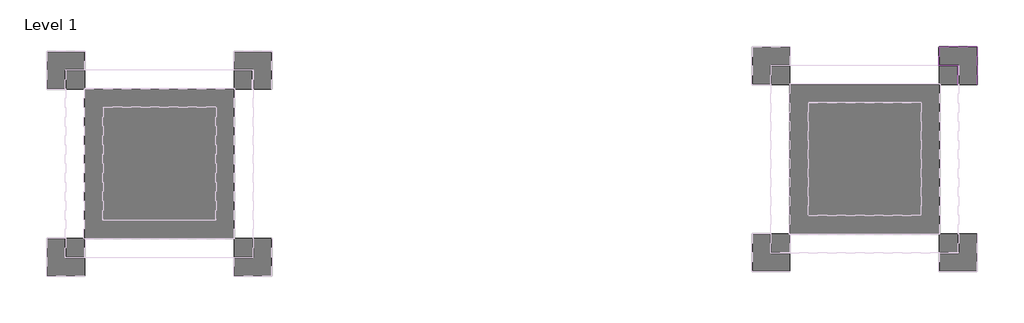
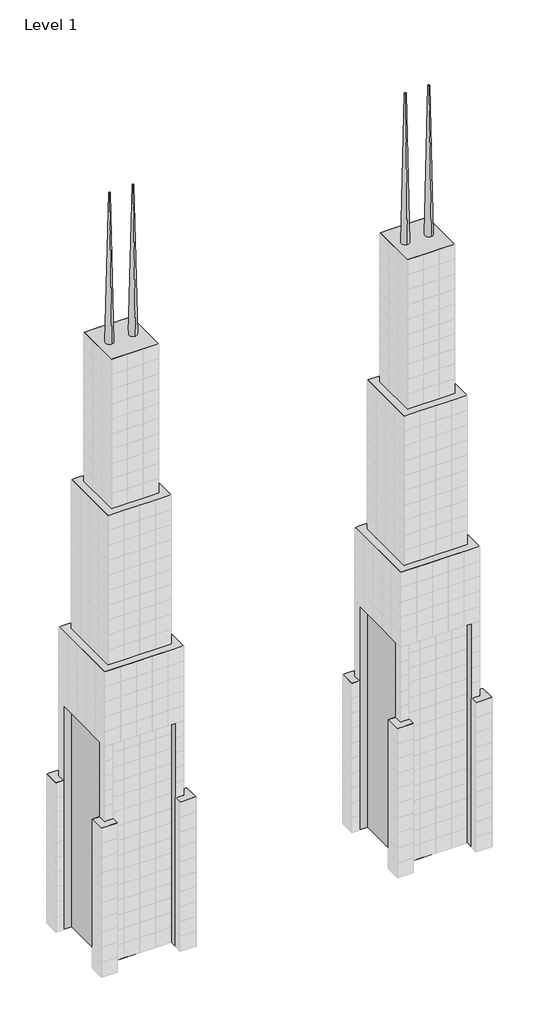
# One storey, part 15 of 15: 93 plates, 2 proxies.
"""IFC4 building model written with IfcOpenShell, lengths in millimetres."""

from ifc_helpers import new_model, si_unit, frame, origin, origin_with_axes, place, context, project, spatial, polyline, circle_curve, outline, extrude, faceted_brep, transform, mapped, element, save
from ifc_brep_helpers import plane_surface, revolved_surface, advanced_brep
from components import system_panel_glazed_9c75bc08, system_panel_glazed_aa64d645

model = new_model("IFC4")

# Units and contexts
model_context = context("Model", 3, world=origin())
ifc_project = project(units=[si_unit("LENGTHUNIT", "METRE", prefix="MILLI")], contexts=[model_context])

# Site, building, storey
site = spatial("IfcSite", under=ifc_project)
building = spatial("IfcBuilding", under=site)
storey = spatial("IfcBuildingStorey", under=building, Name="Level 1", Elevation=0.0)

# Proxies
placement = place(None, origin())
element("IfcBuildingElementProxy", 1, Name="Mass 1 : Mass 1", ObjectType="Mass 1 : Mass 1", at=placement, inside=storey, context=model_context, shape_type="SolidModel", body=[
    faceted_brep([(-5599.4161695, 9497.9495511, 60960.0), (-20839.4161695, 9497.9495511, 60960.0), (-20839.4161695, -5742.0504489, 60960.0), (-5599.4161695, -5742.0504489, 60960.0), (-5599.4161695, -5742.0504489, 0.0), (-7123.4161695, -5742.0504489, 0.0), (-7123.4161695, -4218.0504489, 0.0), (-5599.4161695, -4218.0504489, 0.0), (-19315.4161695, -5742.0504489, 0.0), (-20839.4161695, -5742.0504489, 0.0), (-20839.4161695, -4218.0504489, 0.0), (-19315.4161695, -4218.0504489, 0.0), (-19315.4161695, 7973.9495511, 0.0), (-7123.4161695, 7973.9495511, 0.0), (-7123.4161695, 9497.9495511, 0.0), (-5599.4161695, 9497.9495511, 0.0), (-5599.4161695, 7973.9495511, 0.0), (-20839.4161695, 9497.9495511, 0.0), (-19315.4161695, 9497.9495511, 0.0), (-20839.4161695, 7973.9495511, 0.0), (-7123.4161695, 9497.9495511, 45720.0), (-19315.4161695, 9497.9495511, 45720.0), (-20839.4161695, 7973.9495511, 45720.0), (-20839.4161695, -4218.0504489, 45720.0), (-19315.4161695, -5742.0504489, 45720.0), (-7123.4161695, -5742.0504489, 45720.0), (-5599.4161695, -4218.0504489, 45720.0), (-5599.4161695, 7973.9495511, 45720.0), (-19315.4161695, -4218.0504489, 45720.0), (-7123.4161695, -4218.0504489, 45720.0), (-7123.4161695, 7973.9495511, 45720.0), (-19315.4161695, 7973.9495511, 45720.0), (-19315.4161695, 7973.9495511, 45720.0), (-19315.4161695, -4218.0504489, 45720.0), (-7123.4161695, -4218.0504489, 45720.0), (-7123.4161695, 7973.9495511, 45720.0)], [[[0, 1, 2, 3]], [[4, 5, 6, 7]], [[8, 9, 10, 11]], [[6, 11, 12, 13]], [[14, 15, 16, 13]], [[17, 18, 12, 19]], [[1, 0, 15, 14, 20, 21, 18, 17]], [[2, 1, 17, 19, 22, 23, 10, 9]], [[3, 2, 9, 8, 24, 25, 5, 4]], [[0, 3, 4, 7, 26, 27, 16, 15]], [[24, 28, 29, 25]], [[25, 29, 6, 5]], [[29, 28, 11, 6]], [[28, 24, 8, 11]], [[20, 30, 31, 21]], [[21, 31, 12, 18]], [[31, 30, 13, 12]], [[30, 20, 14, 13]], [[22, 32, 33, 23]], [[23, 33, 11, 10]], [[33, 32, 12, 11]], [[32, 22, 19, 12]], [[26, 34, 35, 27]], [[27, 35, 13, 16]], [[35, 34, 6, 13]], [[34, 26, 7, 6]]]),
    extrude(outline(polyline([(-19315.4161695, 7973.9495511), (-7123.4161695, 7973.9495511), (-7123.4161695, -4218.0504489), (-19315.4161695, -4218.0504489), (-19315.4161695, 7973.9495511)])), frame((0.0, 0.0, 60960.0), z_axis=(0.0, 0.0, 1.0), x_axis=(1.0, 0.0, 0.0)), (0.0, 0.0, 1.0), 30480.0),
    extrude(outline(polyline([(-8641.8488996, 6449.9495511), (-8641.8488996, -2694.0504489), (-17785.8488996, -2694.0504489), (-17785.8488996, 6449.9495511), (-8641.8488996, 6449.9495511)])), frame((0.0, 0.0, 91440.0), z_axis=(0.0, 0.0, 1.0), x_axis=(1.0, 0.0, 0.0)), (0.0, 0.0, 1.0), 30480.0),
    extrude(outline(polyline([(-4075.4161695, -4218.0504489), (-4075.4161695, -7266.0504489), (-7123.4161695, -7266.0504489), (-7123.4161695, -5742.0504489), (-5599.4161695, -5742.0504489), (-5599.4161695, -4218.0504489), (-4075.4161695, -4218.0504489)])), origin_with_axes(), (0.0, 0.0, 1.0), 30480.0),
    extrude(outline(polyline([(-22363.4161695, -4218.0504489), (-20839.4161695, -4218.0504489), (-20839.4161695, -5742.0504489), (-19315.4161695, -5742.0504489), (-19315.4161695, -7266.0504489), (-22363.4161695, -7266.0504489), (-22363.4161695, -4218.0504489)])), origin_with_axes(), (0.0, 0.0, 1.0), 30480.0),
    extrude(outline(polyline([(-4075.4161695, 7973.9495511), (-5599.4161695, 7973.9495511), (-5599.4161695, 9497.9495511), (-7123.4161695, 9497.9495511), (-7123.4161695, 11021.9495511), (-4075.4161695, 11021.9495511), (-4075.4161695, 7973.9495511)])), origin_with_axes(), (0.0, 0.0, 1.0), 30480.0),
    extrude(outline(polyline([(-22363.4161695, 7973.9495511), (-22363.4161695, 11021.9495511), (-19315.4161695, 11021.9495511), (-19315.4161695, 9497.9495511), (-20839.4161695, 9497.9495511), (-20839.4161695, 7973.9495511), (-22363.4161695, 7973.9495511)])), origin_with_axes(), (0.0, 0.0, 1.0), 30480.0),
    advanced_brep(
    [(-15521.307727, 1736.5830766, 152400.0), (-15522.7857924, 2041.3794928, 152400.0), (-15518.3515961, 1126.9902442, 121920.0), (-15525.7419233, 2650.9723252, 121920.0)],
    [
        (0, 1, circle_curve(frame((-15522.0467597, 1888.9812847, 152400.0), z_axis=(0.0, 0.0, 1.0), x_axis=(0.004849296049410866, -0.9999882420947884, 0.0)), 152.4)),
        (1, 0, circle_curve(frame((-15522.0467597, 1888.9812847, 152400.0), z_axis=(0.0, 0.0, 1.0), x_axis=(-0.004849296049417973, 0.9999882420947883, 0.0)), 152.4)),
        (2, 3, circle_curve(frame((-15522.0467597, 1888.9812847, 121920.0), z_axis=(0.0, 0.0, -1.0), x_axis=(-0.004849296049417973, 0.9999882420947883, 0.0)), 762.0)),
        (3, 2, circle_curve(frame((-15522.0467597, 1888.9812847, 121920.0), z_axis=(0.0, 0.0, -1.0), x_axis=(0.004849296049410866, -0.9999882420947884, 0.0)), 762.0)),
        (3, 1),
        (0, 2),
    ],
    [
        plane_surface(frame((-15522.0467597, 1888.9812847, 152400.0), z_axis=(0.0, 0.0, 1.0000000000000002), x_axis=(0.9999882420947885, 0.004849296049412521, 0.0))),
        plane_surface(frame((-15522.0467597, 1888.9812847, 121920.0), z_axis=(0.0, 0.0, -1.0000000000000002), x_axis=(0.9999882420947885, 0.004849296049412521, 0.0))),
        revolved_surface(polyline([(-15521.30772698, 1736.5830766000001, 152400.0), (-15518.3515961, 1126.9902442, 121920.0)]), (-15522.0467597, 1888.9812847, 160020.0), (0.0, 0.0, -1.0)),
        revolved_surface(polyline([(-15522.78579242, 2041.3794928, 152400.0), (-15525.7419233, 2650.9723252, 121920.0)]), (-15522.0467597, 1888.9812847, 160020.0), (0.0, 0.0, -1.0)),
    ],
    [
        (0, [[1, 2]]),
        (1, [[3, 4]]),
        (2, [[-4, 5, -1, 6]]),
        (3, [[-3, -6, -2, -5]]),
    ],
),
    advanced_brep(
    [(-10949.3614841, 1758.7540581, 152400.0), (-10950.8395495, 2063.5504743, 152400.0), (-10946.4053532, 1149.1612258, 121920.0), (-10953.7956804, 2673.1433067, 121920.0)],
    [
        (0, 1, circle_curve(frame((-10950.1005168, 1911.1522662, 152400.0), z_axis=(0.0, 0.0, 1.0), x_axis=(0.004849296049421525, -0.9999882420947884, 0.0)), 152.4)),
        (1, 0, circle_curve(frame((-10950.1005168, 1911.1522662, 152400.0), z_axis=(0.0, 0.0, 1.0), x_axis=(-0.004849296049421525, 0.9999882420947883, 0.0)), 152.4)),
        (2, 3, circle_curve(frame((-10950.1005168, 1911.1522662, 121920.0), z_axis=(0.0, 0.0, -1.0), x_axis=(-0.004849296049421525, 0.9999882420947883, 0.0)), 762.0)),
        (3, 2, circle_curve(frame((-10950.1005168, 1911.1522662, 121920.0), z_axis=(0.0, 0.0, -1.0), x_axis=(0.004849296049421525, -0.9999882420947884, 0.0)), 762.0)),
        (3, 1),
        (0, 2),
    ],
    [
        plane_surface(frame((-10950.1005168, 1911.1522662, 152400.0), z_axis=(0.0, 0.0, 1.0000000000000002), x_axis=(0.9999882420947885, 0.004849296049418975, 0.0))),
        plane_surface(frame((-10950.1005168, 1911.1522662, 121920.0), z_axis=(0.0, 0.0, -1.0000000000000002), x_axis=(0.9999882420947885, 0.004849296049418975, 0.0))),
        revolved_surface(polyline([(-10949.36148408, 1758.75405812, 152400.0), (-10946.4053532, 1149.1612258, 121920.0)]), (-10950.1005168, 1911.1522662, 160020.0), (0.0, 0.0, -1.0)),
        revolved_surface(polyline([(-10950.83954952, 2063.5504743, 152400.0), (-10953.7956804, 2673.1433067, 121920.0)]), (-10950.1005168, 1911.1522662, 160020.0), (0.0, 0.0, -1.0)),
    ],
    [
        (0, [[1, 2]]),
        (1, [[3, 4]]),
        (2, [[-4, 5, -1, 6]]),
        (3, [[-3, -6, -2, -5]]),
    ],
),
])
element("IfcBuildingElementProxy", 2, Name="Mass 4 : Mass 1", ObjectType="Mass 4 : Mass 1", at=placement, inside=storey, context=model_context, shape_type="SolidModel", body=[
    faceted_brep([(51834.2903978, 9875.0904402, 60960.0), (36594.2903978, 9875.0904402, 60960.0), (36594.2903978, -5364.9095598, 60960.0), (51834.2903978, -5364.9095598, 60960.0), (51834.2903978, -5364.9095598, 0.0), (50310.2903978, -5364.9095598, 0.0), (50310.2903978, -3840.9095598, 0.0), (51834.2903978, -3840.9095598, 0.0), (38118.2903978, -5364.9095598, 0.0), (36594.2903978, -5364.9095598, 0.0), (36594.2903978, -3840.9095598, 0.0), (38118.2903978, -3840.9095598, 0.0), (38118.2903978, 8351.0904402, 0.0), (50310.2903978, 8351.0904402, 0.0), (50310.2903978, 9875.0904402, 0.0), (51834.2903978, 9875.0904402, 0.0), (51834.2903978, 8351.0904402, 0.0), (36594.2903978, 9875.0904402, 0.0), (38118.2903978, 9875.0904402, 0.0), (36594.2903978, 8351.0904402, 0.0), (50310.2903978, 9875.0904402, 45720.0), (38118.2903978, 9875.0904402, 45720.0), (36594.2903978, 8351.0904402, 45720.0), (36594.2903978, -3840.9095598, 45720.0), (38118.2903978, -5364.9095598, 45720.0), (50310.2903978, -5364.9095598, 45720.0), (51834.2903978, -3840.9095598, 45720.0), (51834.2903978, 8351.0904402, 45720.0), (38118.2903978, -3840.9095598, 45720.0), (50310.2903978, -3840.9095598, 45720.0), (50310.2903978, 8351.0904402, 45720.0), (38118.2903978, 8351.0904402, 45720.0), (38118.2903978, 8351.0904402, 45720.0), (38118.2903978, -3840.9095598, 45720.0), (50310.2903978, -3840.9095598, 45720.0), (50310.2903978, 8351.0904402, 45720.0)], [[[0, 1, 2, 3]], [[4, 5, 6, 7]], [[8, 9, 10, 11]], [[6, 11, 12, 13]], [[14, 15, 16, 13]], [[17, 18, 12, 19]], [[1, 0, 15, 14, 20, 21, 18, 17]], [[2, 1, 17, 19, 22, 23, 10, 9]], [[3, 2, 9, 8, 24, 25, 5, 4]], [[0, 3, 4, 7, 26, 27, 16, 15]], [[24, 28, 29, 25]], [[25, 29, 6, 5]], [[29, 28, 11, 6]], [[28, 24, 8, 11]], [[20, 30, 31, 21]], [[21, 31, 12, 18]], [[31, 30, 13, 12]], [[30, 20, 14, 13]], [[22, 32, 33, 23]], [[23, 33, 11, 10]], [[33, 32, 12, 11]], [[32, 22, 19, 12]], [[26, 34, 35, 27]], [[27, 35, 13, 16]], [[35, 34, 6, 13]], [[34, 26, 7, 6]]]),
    extrude(outline(polyline([(38118.2903978, 8351.0904402), (50310.2903978, 8351.0904402), (50310.2903978, -3840.9095598), (38118.2903978, -3840.9095598), (38118.2903978, 8351.0904402)])), frame((0.0, 0.0, 60960.0), z_axis=(0.0, 0.0, 1.0), x_axis=(1.0, 0.0, 0.0)), (0.0, 0.0, 1.0), 30480.0),
    extrude(outline(polyline([(48791.8576677, 6827.0904402), (48791.8576677, -2316.9095598), (39647.8576677, -2316.9095598), (39647.8576677, 6827.0904402), (48791.8576677, 6827.0904402)])), frame((0.0, 0.0, 91440.0), z_axis=(0.0, 0.0, 1.0), x_axis=(1.0, 0.0, 0.0)), (0.0, 0.0, 1.0), 30480.0),
    extrude(outline(polyline([(53358.2903978, -3840.9095598), (53358.2903978, -6888.9095598), (50310.2903978, -6888.9095598), (50310.2903978, -5364.9095598), (51834.2903978, -5364.9095598), (51834.2903978, -3840.9095598), (53358.2903978, -3840.9095598)])), origin_with_axes(), (0.0, 0.0, 1.0), 30480.0),
    extrude(outline(polyline([(35070.2903978, -3840.9095598), (36594.2903978, -3840.9095598), (36594.2903978, -5364.9095598), (38118.2903978, -5364.9095598), (38118.2903978, -6888.9095598), (35070.2903978, -6888.9095598), (35070.2903978, -3840.9095598)])), origin_with_axes(), (0.0, 0.0, 1.0), 30480.0),
    extrude(outline(polyline([(53358.2903978, 8351.0904402), (51834.2903978, 8351.0904402), (51834.2903978, 9875.0904402), (50310.2903978, 9875.0904402), (50310.2903978, 11399.0904402), (53358.2903978, 11399.0904402), (53358.2903978, 8351.0904402)])), origin_with_axes(), (0.0, 0.0, 1.0), 30480.0),
    extrude(outline(polyline([(35070.2903978, 8351.0904402), (35070.2903978, 11399.0904402), (38118.2903978, 11399.0904402), (38118.2903978, 9875.0904402), (36594.2903978, 9875.0904402), (36594.2903978, 8351.0904402), (35070.2903978, 8351.0904402)])), origin_with_axes(), (0.0, 0.0, 1.0), 30480.0),
    advanced_brep(
    [(41889.4076677, 2147.1404402, 152400.0), (41889.4076677, 2451.9404402, 152400.0), (41889.4076677, 1537.5404402, 121920.0), (41889.4076677, 3061.5404402, 121920.0)],
    [
        (0, 1, circle_curve(frame((41889.4076677, 2299.5404402, 152400.0), z_axis=(0.0, 0.0, 1.0), x_axis=(0.0, -1.0, 0.0)), 152.4)),
        (1, 0, circle_curve(frame((41889.4076677, 2299.5404402, 152400.0), z_axis=(0.0, 0.0, 1.0), x_axis=(0.0, 1.0, 0.0)), 152.4)),
        (2, 3, circle_curve(frame((41889.4076677, 2299.5404402, 121920.0), z_axis=(0.0, 0.0, -1.0), x_axis=(0.0, 1.0, 0.0)), 762.0)),
        (3, 2, circle_curve(frame((41889.4076677, 2299.5404402, 121920.0), z_axis=(0.0, 0.0, -1.0), x_axis=(0.0, -1.0, 0.0)), 762.0)),
        (3, 1),
        (0, 2),
    ],
    [
        plane_surface(frame((41889.4076677, 2299.5404402, 152400.0), z_axis=(0.0, 0.0, 1.0), x_axis=(1.0, 0.0, 0.0))),
        plane_surface(frame((41889.4076677, 2299.5404402, 121920.0), z_axis=(0.0, 0.0, -1.0), x_axis=(1.0, 0.0, 0.0))),
        revolved_surface(polyline([(41889.4076677, 2147.1404402, 152400.0), (41889.4076677, 1537.5404402, 121920.0)]), (41889.4076677, 2299.5404402, 160020.0), (0.0, 0.0, -1.0)),
        revolved_surface(polyline([(41889.4076677, 2451.9404402, 152400.0), (41889.4076677, 3061.5404402, 121920.0)]), (41889.4076677, 2299.5404402, 160020.0), (0.0, 0.0, -1.0)),
    ],
    [
        (0, [[1, 2]]),
        (1, [[3, 4]]),
        (2, [[-4, 5, -1, 6]]),
        (3, [[-3, -6, -2, -5]]),
    ],
),
    advanced_brep(
    [(46461.4076677, 2147.1404402, 152400.0), (46461.4076677, 2451.9404402, 152400.0), (46461.4076677, 1537.5404402, 121920.0), (46461.4076677, 3061.5404402, 121920.0)],
    [
        (0, 1, circle_curve(frame((46461.4076677, 2299.5404402, 152400.0), z_axis=(0.0, 0.0, 1.0), x_axis=(0.0, -1.0, 0.0)), 152.4)),
        (1, 0, circle_curve(frame((46461.4076677, 2299.5404402, 152400.0), z_axis=(0.0, 0.0, 1.0), x_axis=(0.0, 1.0, 0.0)), 152.4)),
        (2, 3, circle_curve(frame((46461.4076677, 2299.5404402, 121920.0), z_axis=(0.0, 0.0, -1.0), x_axis=(0.0, 1.0, 0.0)), 762.0)),
        (3, 2, circle_curve(frame((46461.4076677, 2299.5404402, 121920.0), z_axis=(0.0, 0.0, -1.0), x_axis=(0.0, -1.0, 0.0)), 762.0)),
        (3, 1),
        (0, 2),
    ],
    [
        plane_surface(frame((46461.4076677, 2299.5404402, 152400.0), z_axis=(0.0, 0.0, 1.0), x_axis=(1.0, 0.0, 0.0))),
        plane_surface(frame((46461.4076677, 2299.5404402, 121920.0), z_axis=(0.0, 0.0, -1.0), x_axis=(1.0, 0.0, 0.0))),
        revolved_surface(polyline([(46461.4076677, 2147.1404402, 152400.0), (46461.4076677, 1537.5404402, 121920.0)]), (46461.4076677, 2299.5404402, 160020.0), (0.0, 0.0, -1.0)),
        revolved_surface(polyline([(46461.4076677, 2451.9404402, 152400.0), (46461.4076677, 3061.5404402, 121920.0)]), (46461.4076677, 2299.5404402, 160020.0), (0.0, 0.0, -1.0)),
    ],
    [
        (0, [[1, 2]]),
        (1, [[3, 4]]),
        (2, [[-4, 5, -1, 6]]),
        (3, [[-3, -6, -2, -5]]),
    ],
),
])

# Plates
system_panel_glazed_shape = system_panel_glazed_9c75bc08(model_context)
element("IfcPlate", 3, ObjectType="System Panel : Glazed", at=placement, inside=storey, context=model_context, shape_type="MappedRepresentation", body=[
    mapped(system_panel_glazed_shape, transform((51072.2903978, 9875.0904402, 36576.0), x_axis=(-1.0, 0.0, 0.0), y_axis=(0.0, -1.0, 0.0), z_axis=(0.0, 0.0, 1.0))),
])
element("IfcPlate", 4, ObjectType="System Panel : Glazed", at=placement, inside=storey, context=model_context, shape_type="MappedRepresentation", body=[
    mapped(system_panel_glazed_shape, transform((51072.2903978, 9875.0904402, 39624.0), x_axis=(-1.0, 0.0, 0.0), y_axis=(0.0, -1.0, 0.0), z_axis=(0.0, 0.0, 1.0))),
])
element("IfcPlate", 5, ObjectType="System Panel : Glazed", at=placement, inside=storey, context=model_context, shape_type="MappedRepresentation", body=[
    mapped(system_panel_glazed_shape, transform((51072.2903978, 9875.0904402, 42672.0), x_axis=(-1.0, 0.0, 0.0), y_axis=(0.0, -1.0, 0.0), z_axis=(0.0, 0.0, 1.0))),
])
element("IfcPlate", 6, ObjectType="System Panel : Glazed", at=placement, inside=storey, context=model_context, shape_type="MappedRepresentation", body=[
    mapped(system_panel_glazed_shape, transform((51072.2903978, 9875.0904402, 0.0), x_axis=(-1.0, 0.0, 0.0), y_axis=(0.0, -1.0, 0.0), z_axis=(0.0, 0.0, 1.0))),
])
element("IfcPlate", 7, ObjectType="System Panel : Glazed", at=placement, inside=storey, context=model_context, shape_type="MappedRepresentation", body=[
    mapped(system_panel_glazed_shape, transform((51072.2903978, 9875.0904402, 3048.0), x_axis=(-1.0, 0.0, 0.0), y_axis=(0.0, -1.0, 0.0), z_axis=(0.0, 0.0, 1.0))),
])
element("IfcPlate", 8, ObjectType="System Panel : Glazed", at=placement, inside=storey, context=model_context, shape_type="MappedRepresentation", body=[
    mapped(system_panel_glazed_shape, transform((51072.2903978, 9875.0904402, 6096.0), x_axis=(-1.0, 0.0, 0.0), y_axis=(0.0, -1.0, 0.0), z_axis=(0.0, 0.0, 1.0))),
])
element("IfcPlate", 9, ObjectType="System Panel : Glazed", at=placement, inside=storey, context=model_context, shape_type="MappedRepresentation", body=[
    mapped(system_panel_glazed_shape, transform((51072.2903978, 9875.0904402, 9144.0), x_axis=(-1.0, 0.0, 0.0), y_axis=(0.0, -1.0, 0.0), z_axis=(0.0, 0.0, 1.0))),
])
element("IfcPlate", 10, ObjectType="System Panel : Glazed", at=placement, inside=storey, context=model_context, shape_type="MappedRepresentation", body=[
    mapped(system_panel_glazed_shape, transform((51072.2903978, 9875.0904402, 12192.0), x_axis=(-1.0, 0.0, 0.0), y_axis=(0.0, -1.0, 0.0), z_axis=(0.0, 0.0, 1.0))),
])
element("IfcPlate", 11, ObjectType="System Panel : Glazed", at=placement, inside=storey, context=model_context, shape_type="MappedRepresentation", body=[
    mapped(system_panel_glazed_shape, transform((51072.2903978, 9875.0904402, 15240.0), x_axis=(-1.0, 0.0, 0.0), y_axis=(0.0, -1.0, 0.0), z_axis=(0.0, 0.0, 1.0))),
])
element("IfcPlate", 12, ObjectType="System Panel : Glazed", at=placement, inside=storey, context=model_context, shape_type="MappedRepresentation", body=[
    mapped(system_panel_glazed_shape, transform((51072.2903978, 9875.0904402, 18288.0), x_axis=(-1.0, 0.0, 0.0), y_axis=(0.0, -1.0, 0.0), z_axis=(0.0, 0.0, 1.0))),
])
element("IfcPlate", 13, ObjectType="System Panel : Glazed", at=placement, inside=storey, context=model_context, shape_type="MappedRepresentation", body=[
    mapped(system_panel_glazed_shape, transform((51072.2903978, 9875.0904402, 21336.0), x_axis=(-1.0, 0.0, 0.0), y_axis=(0.0, -1.0, 0.0), z_axis=(0.0, 0.0, 1.0))),
])
element("IfcPlate", 14, ObjectType="System Panel : Glazed", at=placement, inside=storey, context=model_context, shape_type="MappedRepresentation", body=[
    mapped(system_panel_glazed_shape, transform((51072.2903978, 9875.0904402, 24384.0), x_axis=(-1.0, 0.0, 0.0), y_axis=(0.0, -1.0, 0.0), z_axis=(0.0, 0.0, 1.0))),
])
element("IfcPlate", 15, ObjectType="System Panel : Glazed", at=placement, inside=storey, context=model_context, shape_type="MappedRepresentation", body=[
    mapped(system_panel_glazed_shape, transform((51072.2903978, 9875.0904402, 27432.0), x_axis=(-1.0, 0.0, 0.0), y_axis=(0.0, -1.0, 0.0), z_axis=(0.0, 0.0, 1.0))),
])
element("IfcPlate", 16, ObjectType="System Panel : Glazed", at=placement, inside=storey, context=model_context, shape_type="MappedRepresentation", body=[
    mapped(system_panel_glazed_shape, transform((51072.2903978, 9875.0904402, 30480.0), x_axis=(-1.0, 0.0, 0.0), y_axis=(0.0, -1.0, 0.0), z_axis=(0.0, 0.0, 1.0))),
])
element("IfcPlate", 17, ObjectType="System Panel : Glazed", at=placement, inside=storey, context=model_context, shape_type="MappedRepresentation", body=[
    mapped(system_panel_glazed_shape, transform((51072.2903978, 9875.0904402, 33528.0), x_axis=(-1.0, 0.0, 0.0), y_axis=(0.0, -1.0, 0.0), z_axis=(0.0, 0.0, 1.0))),
])
element("IfcPlate", 18, ObjectType="System Panel : Glazed", at=placement, inside=storey, context=model_context, shape_type="MappedRepresentation", body=[
    mapped(system_panel_glazed_shape, transform((51072.2903978, 9875.0904402, 36576.0), x_axis=(-1.0, 0.0, 0.0), y_axis=(0.0, -1.0, 0.0), z_axis=(0.0, 0.0, 1.0))),
])
element("IfcPlate", 19, ObjectType="System Panel : Glazed", at=placement, inside=storey, context=model_context, shape_type="MappedRepresentation", body=[
    mapped(system_panel_glazed_shape, transform((51072.2903978, 9875.0904402, 39624.0), x_axis=(-1.0, 0.0, 0.0), y_axis=(0.0, -1.0, 0.0), z_axis=(0.0, 0.0, 1.0))),
])
element("IfcPlate", 20, ObjectType="System Panel : Glazed", at=placement, inside=storey, context=model_context, shape_type="MappedRepresentation", body=[
    mapped(system_panel_glazed_shape, transform((51072.2903978, 9875.0904402, 42672.0), x_axis=(-1.0, 0.0, 0.0), y_axis=(0.0, -1.0, 0.0), z_axis=(0.0, 0.0, 1.0))),
])
element("IfcPlate", 21, ObjectType="System Panel : Glazed", at=placement, inside=storey, context=model_context, shape_type="MappedRepresentation", body=[
    mapped(system_panel_glazed_shape, transform((51072.2903978, 9875.0904402, 0.0), x_axis=(-1.0, 0.0, 0.0), y_axis=(0.0, -1.0, 0.0), z_axis=(0.0, 0.0, 1.0))),
])
element("IfcPlate", 22, ObjectType="System Panel : Glazed", at=placement, inside=storey, context=model_context, shape_type="MappedRepresentation", body=[
    mapped(system_panel_glazed_shape, transform((51072.2903978, 9875.0904402, 3048.0), x_axis=(-1.0, 0.0, 0.0), y_axis=(0.0, -1.0, 0.0), z_axis=(0.0, 0.0, 1.0))),
])
element("IfcPlate", 23, ObjectType="System Panel : Glazed", at=placement, inside=storey, context=model_context, shape_type="MappedRepresentation", body=[
    mapped(system_panel_glazed_shape, transform((51072.2903978, 9875.0904402, 6096.0), x_axis=(-1.0, 0.0, 0.0), y_axis=(0.0, -1.0, 0.0), z_axis=(0.0, 0.0, 1.0))),
])
element("IfcPlate", 24, ObjectType="System Panel : Glazed", at=placement, inside=storey, context=model_context, shape_type="MappedRepresentation", body=[
    mapped(system_panel_glazed_shape, transform((51072.2903978, 9875.0904402, 9144.0), x_axis=(-1.0, 0.0, 0.0), y_axis=(0.0, -1.0, 0.0), z_axis=(0.0, 0.0, 1.0))),
])
element("IfcPlate", 25, ObjectType="System Panel : Glazed", at=placement, inside=storey, context=model_context, shape_type="MappedRepresentation", body=[
    mapped(system_panel_glazed_shape, transform((51072.2903978, 9875.0904402, 12192.0), x_axis=(-1.0, 0.0, 0.0), y_axis=(0.0, -1.0, 0.0), z_axis=(0.0, 0.0, 1.0))),
])
element("IfcPlate", 26, ObjectType="System Panel : Glazed", at=placement, inside=storey, context=model_context, shape_type="MappedRepresentation", body=[
    mapped(system_panel_glazed_shape, transform((51072.2903978, 9875.0904402, 15240.0), x_axis=(-1.0, 0.0, 0.0), y_axis=(0.0, -1.0, 0.0), z_axis=(0.0, 0.0, 1.0))),
])
element("IfcPlate", 27, ObjectType="System Panel : Glazed", at=placement, inside=storey, context=model_context, shape_type="MappedRepresentation", body=[
    mapped(system_panel_glazed_shape, transform((51072.2903978, 9875.0904402, 18288.0), x_axis=(-1.0, 0.0, 0.0), y_axis=(0.0, -1.0, 0.0), z_axis=(0.0, 0.0, 1.0))),
])
element("IfcPlate", 28, ObjectType="System Panel : Glazed", at=placement, inside=storey, context=model_context, shape_type="MappedRepresentation", body=[
    mapped(system_panel_glazed_shape, transform((51072.2903978, 9875.0904402, 21336.0), x_axis=(-1.0, 0.0, 0.0), y_axis=(0.0, -1.0, 0.0), z_axis=(0.0, 0.0, 1.0))),
])
element("IfcPlate", 29, ObjectType="System Panel : Glazed", at=placement, inside=storey, context=model_context, shape_type="MappedRepresentation", body=[
    mapped(system_panel_glazed_shape, transform((51072.2903978, 9875.0904402, 24384.0), x_axis=(-1.0, 0.0, 0.0), y_axis=(0.0, -1.0, 0.0), z_axis=(0.0, 0.0, 1.0))),
])
element("IfcPlate", 30, ObjectType="System Panel : Glazed", at=placement, inside=storey, context=model_context, shape_type="MappedRepresentation", body=[
    mapped(system_panel_glazed_shape, transform((51072.2903978, 9875.0904402, 27432.0), x_axis=(-1.0, 0.0, 0.0), y_axis=(0.0, -1.0, 0.0), z_axis=(0.0, 0.0, 1.0))),
])
element("IfcPlate", 31, ObjectType="System Panel : Glazed", at=placement, inside=storey, context=model_context, shape_type="MappedRepresentation", body=[
    mapped(system_panel_glazed_shape, transform((51072.2903978, 9875.0904402, 30480.0), x_axis=(-1.0, 0.0, 0.0), y_axis=(0.0, -1.0, 0.0), z_axis=(0.0, 0.0, 1.0))),
])
element("IfcPlate", 32, ObjectType="System Panel : Glazed", at=placement, inside=storey, context=model_context, shape_type="MappedRepresentation", body=[
    mapped(system_panel_glazed_shape, transform((51072.2903978, 9875.0904402, 33528.0), x_axis=(-1.0, 0.0, 0.0), y_axis=(0.0, -1.0, 0.0), z_axis=(0.0, 0.0, 1.0))),
])
element("IfcPlate", 33, ObjectType="System Panel : Glazed", at=placement, inside=storey, context=model_context, shape_type="MappedRepresentation", body=[
    mapped(system_panel_glazed_shape, transform((51072.2903978, 9875.0904402, 36576.0), x_axis=(-1.0, 0.0, 0.0), y_axis=(0.0, -1.0, 0.0), z_axis=(0.0, 0.0, 1.0))),
])
element("IfcPlate", 34, ObjectType="System Panel : Glazed", at=placement, inside=storey, context=model_context, shape_type="MappedRepresentation", body=[
    mapped(system_panel_glazed_shape, transform((51072.2903978, 9875.0904402, 39624.0), x_axis=(-1.0, 0.0, 0.0), y_axis=(0.0, -1.0, 0.0), z_axis=(0.0, 0.0, 1.0))),
])
element("IfcPlate", 35, ObjectType="System Panel : Glazed", at=placement, inside=storey, context=model_context, shape_type="MappedRepresentation", body=[
    mapped(system_panel_glazed_shape, transform((51072.2903978, 9875.0904402, 42672.0), x_axis=(-1.0, 0.0, 0.0), y_axis=(0.0, -1.0, 0.0), z_axis=(0.0, 0.0, 1.0))),
])
element("IfcPlate", 36, ObjectType="System Panel : Glazed", at=placement, inside=storey, context=model_context, shape_type="MappedRepresentation", body=[
    mapped(system_panel_glazed_shape, transform((51834.2903978, 9113.0904402, 0.0), x_axis=(0.0, -1.0, 0.0), y_axis=(1.0, 0.0, 0.0), z_axis=(0.0, 0.0, 1.0))),
])
element("IfcPlate", 37, ObjectType="System Panel : Glazed", at=placement, inside=storey, context=model_context, shape_type="MappedRepresentation", body=[
    mapped(system_panel_glazed_shape, transform((51834.2903978, 9113.0904402, 3048.0), x_axis=(0.0, -1.0, 0.0), y_axis=(1.0, 0.0, 0.0), z_axis=(0.0, 0.0, 1.0))),
])
element("IfcPlate", 38, ObjectType="System Panel : Glazed", at=placement, inside=storey, context=model_context, shape_type="MappedRepresentation", body=[
    mapped(system_panel_glazed_shape, transform((51834.2903978, 9113.0904402, 6096.0), x_axis=(0.0, -1.0, 0.0), y_axis=(1.0, 0.0, 0.0), z_axis=(0.0, 0.0, 1.0))),
])
element("IfcPlate", 39, ObjectType="System Panel : Glazed", at=placement, inside=storey, context=model_context, shape_type="MappedRepresentation", body=[
    mapped(system_panel_glazed_shape, transform((51834.2903978, 9113.0904402, 9144.0), x_axis=(0.0, -1.0, 0.0), y_axis=(1.0, 0.0, 0.0), z_axis=(0.0, 0.0, 1.0))),
])
element("IfcPlate", 40, ObjectType="System Panel : Glazed", at=placement, inside=storey, context=model_context, shape_type="MappedRepresentation", body=[
    mapped(system_panel_glazed_shape, transform((51834.2903978, 9113.0904402, 12192.0), x_axis=(0.0, -1.0, 0.0), y_axis=(1.0, 0.0, 0.0), z_axis=(0.0, 0.0, 1.0))),
])
element("IfcPlate", 41, ObjectType="System Panel : Glazed", at=placement, inside=storey, context=model_context, shape_type="MappedRepresentation", body=[
    mapped(system_panel_glazed_shape, transform((51834.2903978, 9113.0904402, 15240.0), x_axis=(0.0, -1.0, 0.0), y_axis=(1.0, 0.0, 0.0), z_axis=(0.0, 0.0, 1.0))),
])
element("IfcPlate", 42, ObjectType="System Panel : Glazed", at=placement, inside=storey, context=model_context, shape_type="MappedRepresentation", body=[
    mapped(system_panel_glazed_shape, transform((51834.2903978, 9113.0904402, 18288.0), x_axis=(0.0, -1.0, 0.0), y_axis=(1.0, 0.0, 0.0), z_axis=(0.0, 0.0, 1.0))),
])
element("IfcPlate", 43, ObjectType="System Panel : Glazed", at=placement, inside=storey, context=model_context, shape_type="MappedRepresentation", body=[
    mapped(system_panel_glazed_shape, transform((51834.2903978, 9113.0904402, 21336.0), x_axis=(0.0, -1.0, 0.0), y_axis=(1.0, 0.0, 0.0), z_axis=(0.0, 0.0, 1.0))),
])
element("IfcPlate", 44, ObjectType="System Panel : Glazed", at=placement, inside=storey, context=model_context, shape_type="MappedRepresentation", body=[
    mapped(system_panel_glazed_shape, transform((51834.2903978, 9113.0904402, 24384.0), x_axis=(0.0, -1.0, 0.0), y_axis=(1.0, 0.0, 0.0), z_axis=(0.0, 0.0, 1.0))),
])
element("IfcPlate", 45, ObjectType="System Panel : Glazed", at=placement, inside=storey, context=model_context, shape_type="MappedRepresentation", body=[
    mapped(system_panel_glazed_shape, transform((51834.2903978, 9113.0904402, 27432.0), x_axis=(0.0, -1.0, 0.0), y_axis=(1.0, 0.0, 0.0), z_axis=(0.0, 0.0, 1.0))),
])
element("IfcPlate", 46, ObjectType="System Panel : Glazed", at=placement, inside=storey, context=model_context, shape_type="MappedRepresentation", body=[
    mapped(system_panel_glazed_shape, transform((50310.2903978, 10637.0904402, 0.0), x_axis=(0.0, -1.0, 0.0), y_axis=(1.0, 0.0, 0.0), z_axis=(0.0, 0.0, 1.0))),
])
element("IfcPlate", 47, ObjectType="System Panel : Glazed", at=placement, inside=storey, context=model_context, shape_type="MappedRepresentation", body=[
    mapped(system_panel_glazed_shape, transform((50310.2903978, 10637.0904402, 3048.0), x_axis=(0.0, -1.0, 0.0), y_axis=(1.0, 0.0, 0.0), z_axis=(0.0, 0.0, 1.0))),
])
element("IfcPlate", 48, ObjectType="System Panel : Glazed", at=placement, inside=storey, context=model_context, shape_type="MappedRepresentation", body=[
    mapped(system_panel_glazed_shape, transform((50310.2903978, 10637.0904402, 6096.0), x_axis=(0.0, -1.0, 0.0), y_axis=(1.0, 0.0, 0.0), z_axis=(0.0, 0.0, 1.0))),
])
element("IfcPlate", 49, ObjectType="System Panel : Glazed", at=placement, inside=storey, context=model_context, shape_type="MappedRepresentation", body=[
    mapped(system_panel_glazed_shape, transform((50310.2903978, 10637.0904402, 9144.0), x_axis=(0.0, -1.0, 0.0), y_axis=(1.0, 0.0, 0.0), z_axis=(0.0, 0.0, 1.0))),
])
element("IfcPlate", 50, ObjectType="System Panel : Glazed", at=placement, inside=storey, context=model_context, shape_type="MappedRepresentation", body=[
    mapped(system_panel_glazed_shape, transform((50310.2903978, 10637.0904402, 12192.0), x_axis=(0.0, -1.0, 0.0), y_axis=(1.0, 0.0, 0.0), z_axis=(0.0, 0.0, 1.0))),
])
element("IfcPlate", 51, ObjectType="System Panel : Glazed", at=placement, inside=storey, context=model_context, shape_type="MappedRepresentation", body=[
    mapped(system_panel_glazed_shape, transform((50310.2903978, 10637.0904402, 15240.0), x_axis=(0.0, -1.0, 0.0), y_axis=(1.0, 0.0, 0.0), z_axis=(0.0, 0.0, 1.0))),
])
element("IfcPlate", 52, ObjectType="System Panel : Glazed", at=placement, inside=storey, context=model_context, shape_type="MappedRepresentation", body=[
    mapped(system_panel_glazed_shape, transform((50310.2903978, 10637.0904402, 18288.0), x_axis=(0.0, -1.0, 0.0), y_axis=(1.0, 0.0, 0.0), z_axis=(0.0, 0.0, 1.0))),
])
element("IfcPlate", 53, ObjectType="System Panel : Glazed", at=placement, inside=storey, context=model_context, shape_type="MappedRepresentation", body=[
    mapped(system_panel_glazed_shape, transform((50310.2903978, 10637.0904402, 21336.0), x_axis=(0.0, -1.0, 0.0), y_axis=(1.0, 0.0, 0.0), z_axis=(0.0, 0.0, 1.0))),
])
element("IfcPlate", 54, ObjectType="System Panel : Glazed", at=placement, inside=storey, context=model_context, shape_type="MappedRepresentation", body=[
    mapped(system_panel_glazed_shape, transform((50310.2903978, 10637.0904402, 24384.0), x_axis=(0.0, -1.0, 0.0), y_axis=(1.0, 0.0, 0.0), z_axis=(0.0, 0.0, 1.0))),
])
element("IfcPlate", 55, ObjectType="System Panel : Glazed", at=placement, inside=storey, context=model_context, shape_type="MappedRepresentation", body=[
    mapped(system_panel_glazed_shape, transform((50310.2903978, 10637.0904402, 27432.0), x_axis=(0.0, -1.0, 0.0), y_axis=(1.0, 0.0, 0.0), z_axis=(0.0, 0.0, 1.0))),
])
system_panel_glazed_2_shape = system_panel_glazed_aa64d645(model_context)
element("IfcPlate", 56, ObjectType="System Panel : Glazed", at=placement, inside=storey, context=model_context, shape_type="MappedRepresentation", body=[
    mapped(system_panel_glazed_2_shape, transform((51834.2903978, 11399.0904402, 0.0), x_axis=(-1.0, 0.0, 0.0), y_axis=(0.0, -1.0, 0.0), z_axis=(0.0, 0.0, 1.0))),
])
element("IfcPlate", 57, ObjectType="System Panel : Glazed", at=placement, inside=storey, context=model_context, shape_type="MappedRepresentation", body=[
    mapped(system_panel_glazed_2_shape, transform((51834.2903978, 11399.0904402, 3048.0), x_axis=(-1.0, 0.0, 0.0), y_axis=(0.0, -1.0, 0.0), z_axis=(0.0, 0.0, 1.0))),
])
element("IfcPlate", 58, ObjectType="System Panel : Glazed", at=placement, inside=storey, context=model_context, shape_type="MappedRepresentation", body=[
    mapped(system_panel_glazed_2_shape, transform((51834.2903978, 11399.0904402, 6096.0), x_axis=(-1.0, 0.0, 0.0), y_axis=(0.0, -1.0, 0.0), z_axis=(0.0, 0.0, 1.0))),
])
element("IfcPlate", 59, ObjectType="System Panel : Glazed", at=placement, inside=storey, context=model_context, shape_type="MappedRepresentation", body=[
    mapped(system_panel_glazed_2_shape, transform((51834.2903978, 11399.0904402, 9144.0), x_axis=(-1.0, 0.0, 0.0), y_axis=(0.0, -1.0, 0.0), z_axis=(0.0, 0.0, 1.0))),
])
element("IfcPlate", 60, ObjectType="System Panel : Glazed", at=placement, inside=storey, context=model_context, shape_type="MappedRepresentation", body=[
    mapped(system_panel_glazed_2_shape, transform((51834.2903978, 11399.0904402, 12192.0), x_axis=(-1.0, 0.0, 0.0), y_axis=(0.0, -1.0, 0.0), z_axis=(0.0, 0.0, 1.0))),
])
element("IfcPlate", 61, ObjectType="System Panel : Glazed", at=placement, inside=storey, context=model_context, shape_type="MappedRepresentation", body=[
    mapped(system_panel_glazed_2_shape, transform((51834.2903978, 11399.0904402, 15240.0), x_axis=(-1.0, 0.0, 0.0), y_axis=(0.0, -1.0, 0.0), z_axis=(0.0, 0.0, 1.0))),
])
element("IfcPlate", 62, ObjectType="System Panel : Glazed", at=placement, inside=storey, context=model_context, shape_type="MappedRepresentation", body=[
    mapped(system_panel_glazed_2_shape, transform((51834.2903978, 11399.0904402, 18288.0), x_axis=(-1.0, 0.0, 0.0), y_axis=(0.0, -1.0, 0.0), z_axis=(0.0, 0.0, 1.0))),
])
element("IfcPlate", 63, ObjectType="System Panel : Glazed", at=placement, inside=storey, context=model_context, shape_type="MappedRepresentation", body=[
    mapped(system_panel_glazed_2_shape, transform((51834.2903978, 11399.0904402, 21336.0), x_axis=(-1.0, 0.0, 0.0), y_axis=(0.0, -1.0, 0.0), z_axis=(0.0, 0.0, 1.0))),
])
element("IfcPlate", 64, ObjectType="System Panel : Glazed", at=placement, inside=storey, context=model_context, shape_type="MappedRepresentation", body=[
    mapped(system_panel_glazed_2_shape, transform((51834.2903978, 11399.0904402, 24384.0), x_axis=(-1.0, 0.0, 0.0), y_axis=(0.0, -1.0, 0.0), z_axis=(0.0, 0.0, 1.0))),
])
element("IfcPlate", 65, ObjectType="System Panel : Glazed", at=placement, inside=storey, context=model_context, shape_type="MappedRepresentation", body=[
    mapped(system_panel_glazed_2_shape, transform((51834.2903978, 11399.0904402, 27432.0), x_axis=(-1.0, 0.0, 0.0), y_axis=(0.0, -1.0, 0.0), z_axis=(0.0, 0.0, 1.0))),
])
element("IfcPlate", 66, ObjectType="System Panel : Glazed", at=placement, inside=storey, context=model_context, shape_type="MappedRepresentation", body=[
    mapped(system_panel_glazed_2_shape, transform((51834.2903978, 11399.0904402, 0.0), x_axis=(-1.0, 0.0, 0.0), y_axis=(0.0, -1.0, 0.0), z_axis=(0.0, 0.0, 1.0))),
])
element("IfcPlate", 67, ObjectType="System Panel : Glazed", at=placement, inside=storey, context=model_context, shape_type="MappedRepresentation", body=[
    mapped(system_panel_glazed_2_shape, transform((51834.2903978, 11399.0904402, 3048.0), x_axis=(-1.0, 0.0, 0.0), y_axis=(0.0, -1.0, 0.0), z_axis=(0.0, 0.0, 1.0))),
])
element("IfcPlate", 68, ObjectType="System Panel : Glazed", at=placement, inside=storey, context=model_context, shape_type="MappedRepresentation", body=[
    mapped(system_panel_glazed_2_shape, transform((51834.2903978, 11399.0904402, 6096.0), x_axis=(-1.0, 0.0, 0.0), y_axis=(0.0, -1.0, 0.0), z_axis=(0.0, 0.0, 1.0))),
])
element("IfcPlate", 69, ObjectType="System Panel : Glazed", at=placement, inside=storey, context=model_context, shape_type="MappedRepresentation", body=[
    mapped(system_panel_glazed_2_shape, transform((51834.2903978, 11399.0904402, 9144.0), x_axis=(-1.0, 0.0, 0.0), y_axis=(0.0, -1.0, 0.0), z_axis=(0.0, 0.0, 1.0))),
])
element("IfcPlate", 70, ObjectType="System Panel : Glazed", at=placement, inside=storey, context=model_context, shape_type="MappedRepresentation", body=[
    mapped(system_panel_glazed_2_shape, transform((51834.2903978, 11399.0904402, 12192.0), x_axis=(-1.0, 0.0, 0.0), y_axis=(0.0, -1.0, 0.0), z_axis=(0.0, 0.0, 1.0))),
])
element("IfcPlate", 71, ObjectType="System Panel : Glazed", at=placement, inside=storey, context=model_context, shape_type="MappedRepresentation", body=[
    mapped(system_panel_glazed_2_shape, transform((51834.2903978, 11399.0904402, 15240.0), x_axis=(-1.0, 0.0, 0.0), y_axis=(0.0, -1.0, 0.0), z_axis=(0.0, 0.0, 1.0))),
])
element("IfcPlate", 72, ObjectType="System Panel : Glazed", at=placement, inside=storey, context=model_context, shape_type="MappedRepresentation", body=[
    mapped(system_panel_glazed_2_shape, transform((51834.2903978, 11399.0904402, 18288.0), x_axis=(-1.0, 0.0, 0.0), y_axis=(0.0, -1.0, 0.0), z_axis=(0.0, 0.0, 1.0))),
])
element("IfcPlate", 73, ObjectType="System Panel : Glazed", at=placement, inside=storey, context=model_context, shape_type="MappedRepresentation", body=[
    mapped(system_panel_glazed_2_shape, transform((51834.2903978, 11399.0904402, 21336.0), x_axis=(-1.0, 0.0, 0.0), y_axis=(0.0, -1.0, 0.0), z_axis=(0.0, 0.0, 1.0))),
])
element("IfcPlate", 74, ObjectType="System Panel : Glazed", at=placement, inside=storey, context=model_context, shape_type="MappedRepresentation", body=[
    mapped(system_panel_glazed_2_shape, transform((51834.2903978, 11399.0904402, 24384.0), x_axis=(-1.0, 0.0, 0.0), y_axis=(0.0, -1.0, 0.0), z_axis=(0.0, 0.0, 1.0))),
])
element("IfcPlate", 75, ObjectType="System Panel : Glazed", at=placement, inside=storey, context=model_context, shape_type="MappedRepresentation", body=[
    mapped(system_panel_glazed_2_shape, transform((51834.2903978, 11399.0904402, 27432.0), x_axis=(-1.0, 0.0, 0.0), y_axis=(0.0, -1.0, 0.0), z_axis=(0.0, 0.0, 1.0))),
])
element("IfcPlate", 76, ObjectType="System Panel : Glazed", at=placement, inside=storey, context=model_context, shape_type="MappedRepresentation", body=[
    mapped(system_panel_glazed_2_shape, transform((53358.2903978, 9875.0904402, 0.0), x_axis=(0.0, 1.0, 0.0), y_axis=(-1.0, 0.0, 0.0), z_axis=(0.0, 0.0, 1.0))),
])
element("IfcPlate", 77, ObjectType="System Panel : Glazed", at=placement, inside=storey, context=model_context, shape_type="MappedRepresentation", body=[
    mapped(system_panel_glazed_2_shape, transform((53358.2903978, 9875.0904402, 3048.0), x_axis=(0.0, 1.0, 0.0), y_axis=(-1.0, 0.0, 0.0), z_axis=(0.0, 0.0, 1.0))),
])
element("IfcPlate", 78, ObjectType="System Panel : Glazed", at=placement, inside=storey, context=model_context, shape_type="MappedRepresentation", body=[
    mapped(system_panel_glazed_2_shape, transform((53358.2903978, 9875.0904402, 6096.0), x_axis=(0.0, 1.0, 0.0), y_axis=(-1.0, 0.0, 0.0), z_axis=(0.0, 0.0, 1.0))),
])
element("IfcPlate", 79, ObjectType="System Panel : Glazed", at=placement, inside=storey, context=model_context, shape_type="MappedRepresentation", body=[
    mapped(system_panel_glazed_2_shape, transform((53358.2903978, 9875.0904402, 9144.0), x_axis=(0.0, 1.0, 0.0), y_axis=(-1.0, 0.0, 0.0), z_axis=(0.0, 0.0, 1.0))),
])
element("IfcPlate", 80, ObjectType="System Panel : Glazed", at=placement, inside=storey, context=model_context, shape_type="MappedRepresentation", body=[
    mapped(system_panel_glazed_2_shape, transform((53358.2903978, 9875.0904402, 12192.0), x_axis=(0.0, 1.0, 0.0), y_axis=(-1.0, 0.0, 0.0), z_axis=(0.0, 0.0, 1.0))),
])
element("IfcPlate", 81, ObjectType="System Panel : Glazed", at=placement, inside=storey, context=model_context, shape_type="MappedRepresentation", body=[
    mapped(system_panel_glazed_2_shape, transform((53358.2903978, 9875.0904402, 15240.0), x_axis=(0.0, 1.0, 0.0), y_axis=(-1.0, 0.0, 0.0), z_axis=(0.0, 0.0, 1.0))),
])
element("IfcPlate", 82, ObjectType="System Panel : Glazed", at=placement, inside=storey, context=model_context, shape_type="MappedRepresentation", body=[
    mapped(system_panel_glazed_2_shape, transform((53358.2903978, 9875.0904402, 18288.0), x_axis=(0.0, 1.0, 0.0), y_axis=(-1.0, 0.0, 0.0), z_axis=(0.0, 0.0, 1.0))),
])
element("IfcPlate", 83, ObjectType="System Panel : Glazed", at=placement, inside=storey, context=model_context, shape_type="MappedRepresentation", body=[
    mapped(system_panel_glazed_2_shape, transform((53358.2903978, 9875.0904402, 21336.0), x_axis=(0.0, 1.0, 0.0), y_axis=(-1.0, 0.0, 0.0), z_axis=(0.0, 0.0, 1.0))),
])
element("IfcPlate", 84, ObjectType="System Panel : Glazed", at=placement, inside=storey, context=model_context, shape_type="MappedRepresentation", body=[
    mapped(system_panel_glazed_2_shape, transform((53358.2903978, 9875.0904402, 24384.0), x_axis=(0.0, 1.0, 0.0), y_axis=(-1.0, 0.0, 0.0), z_axis=(0.0, 0.0, 1.0))),
])
element("IfcPlate", 85, ObjectType="System Panel : Glazed", at=placement, inside=storey, context=model_context, shape_type="MappedRepresentation", body=[
    mapped(system_panel_glazed_2_shape, transform((53358.2903978, 9875.0904402, 27432.0), x_axis=(0.0, 1.0, 0.0), y_axis=(-1.0, 0.0, 0.0), z_axis=(0.0, 0.0, 1.0))),
])
element("IfcPlate", 86, ObjectType="System Panel : Glazed", at=placement, inside=storey, context=model_context, shape_type="MappedRepresentation", body=[
    mapped(system_panel_glazed_2_shape, transform((51834.2903978, 11399.0904402, 0.0), x_axis=(-1.0, 0.0, 0.0), y_axis=(0.0, -1.0, 0.0), z_axis=(0.0, 0.0, 1.0))),
])
element("IfcPlate", 87, ObjectType="System Panel : Glazed", at=placement, inside=storey, context=model_context, shape_type="MappedRepresentation", body=[
    mapped(system_panel_glazed_2_shape, transform((51834.2903978, 11399.0904402, 3048.0), x_axis=(-1.0, 0.0, 0.0), y_axis=(0.0, -1.0, 0.0), z_axis=(0.0, 0.0, 1.0))),
])
element("IfcPlate", 88, ObjectType="System Panel : Glazed", at=placement, inside=storey, context=model_context, shape_type="MappedRepresentation", body=[
    mapped(system_panel_glazed_2_shape, transform((51834.2903978, 11399.0904402, 6096.0), x_axis=(-1.0, 0.0, 0.0), y_axis=(0.0, -1.0, 0.0), z_axis=(0.0, 0.0, 1.0))),
])
element("IfcPlate", 89, ObjectType="System Panel : Glazed", at=placement, inside=storey, context=model_context, shape_type="MappedRepresentation", body=[
    mapped(system_panel_glazed_2_shape, transform((51834.2903978, 11399.0904402, 9144.0), x_axis=(-1.0, 0.0, 0.0), y_axis=(0.0, -1.0, 0.0), z_axis=(0.0, 0.0, 1.0))),
])
element("IfcPlate", 90, ObjectType="System Panel : Glazed", at=placement, inside=storey, context=model_context, shape_type="MappedRepresentation", body=[
    mapped(system_panel_glazed_2_shape, transform((51834.2903978, 11399.0904402, 12192.0), x_axis=(-1.0, 0.0, 0.0), y_axis=(0.0, -1.0, 0.0), z_axis=(0.0, 0.0, 1.0))),
])
element("IfcPlate", 91, ObjectType="System Panel : Glazed", at=placement, inside=storey, context=model_context, shape_type="MappedRepresentation", body=[
    mapped(system_panel_glazed_2_shape, transform((51834.2903978, 11399.0904402, 15240.0), x_axis=(-1.0, 0.0, 0.0), y_axis=(0.0, -1.0, 0.0), z_axis=(0.0, 0.0, 1.0))),
])
element("IfcPlate", 92, ObjectType="System Panel : Glazed", at=placement, inside=storey, context=model_context, shape_type="MappedRepresentation", body=[
    mapped(system_panel_glazed_2_shape, transform((51834.2903978, 11399.0904402, 18288.0), x_axis=(-1.0, 0.0, 0.0), y_axis=(0.0, -1.0, 0.0), z_axis=(0.0, 0.0, 1.0))),
])
element("IfcPlate", 93, ObjectType="System Panel : Glazed", at=placement, inside=storey, context=model_context, shape_type="MappedRepresentation", body=[
    mapped(system_panel_glazed_2_shape, transform((51834.2903978, 11399.0904402, 21336.0), x_axis=(-1.0, 0.0, 0.0), y_axis=(0.0, -1.0, 0.0), z_axis=(0.0, 0.0, 1.0))),
])
element("IfcPlate", 94, ObjectType="System Panel : Glazed", at=placement, inside=storey, context=model_context, shape_type="MappedRepresentation", body=[
    mapped(system_panel_glazed_2_shape, transform((51834.2903978, 11399.0904402, 24384.0), x_axis=(-1.0, 0.0, 0.0), y_axis=(0.0, -1.0, 0.0), z_axis=(0.0, 0.0, 1.0))),
])
element("IfcPlate", 95, ObjectType="System Panel : Glazed", at=placement, inside=storey, context=model_context, shape_type="MappedRepresentation", body=[
    mapped(system_panel_glazed_2_shape, transform((51834.2903978, 11399.0904402, 27432.0), x_axis=(-1.0, 0.0, 0.0), y_axis=(0.0, -1.0, 0.0), z_axis=(0.0, 0.0, 1.0))),
])

save(model, "model.ifc")
